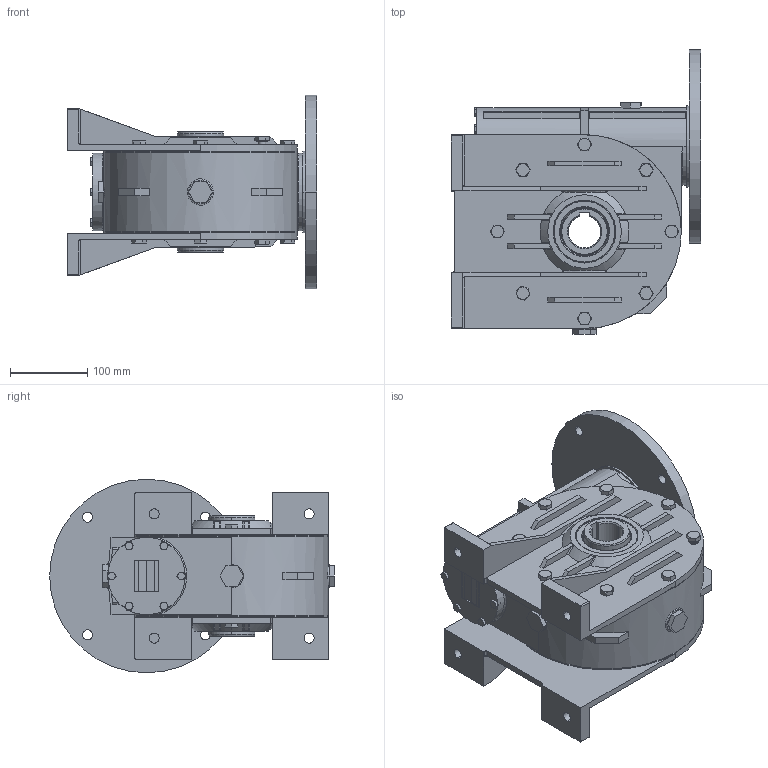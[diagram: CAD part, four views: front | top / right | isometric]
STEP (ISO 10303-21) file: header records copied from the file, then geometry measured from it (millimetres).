
FILE_DESCRIPTION (( 'STEP AP203' ), '1' );
FILE_NAME ('3F002387.STEP', '2012-07-24T06:09:05', ( 'Amministratore' ), ( 'SerteK sas' ), 'SwSTEP 2.0', 'SolidWorks 2009', '' );
FILE_SCHEMA (( 'CONFIG_CONTROL_DESIGN' ));
Products named in the file (1): 3F002387
Bounding box: 322 x 367.5 x 250 mm (x, y, z)
Surface area: 1023622.6 mm2 (no closed solid volume)
Topology: 0 solids, 36 shells, 1959 faces, 4851 edges, 3043 vertices
Faces by surface type: plane 750, cylinder 588, cone 360, bspline 261
Entity records: 86004 total; most frequent: CARTESIAN_POINT 40961, ORIENTED_EDGE 9562, DIRECTION 9130, EDGE_CURVE 4793, AXIS2_PLACEMENT_3D 3529, VERTEX_POINT 3039, EDGE_LOOP 2180, VECTOR 2072
